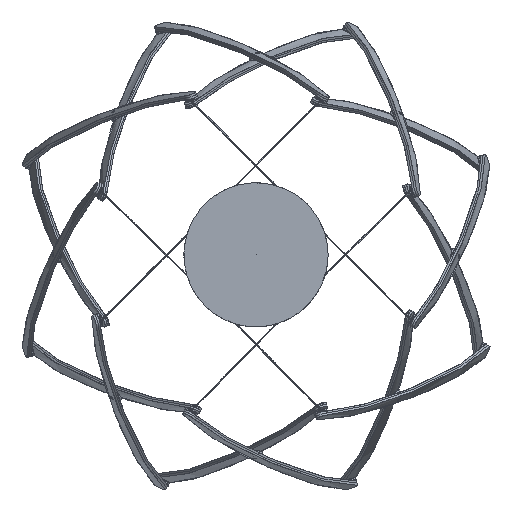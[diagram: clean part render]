
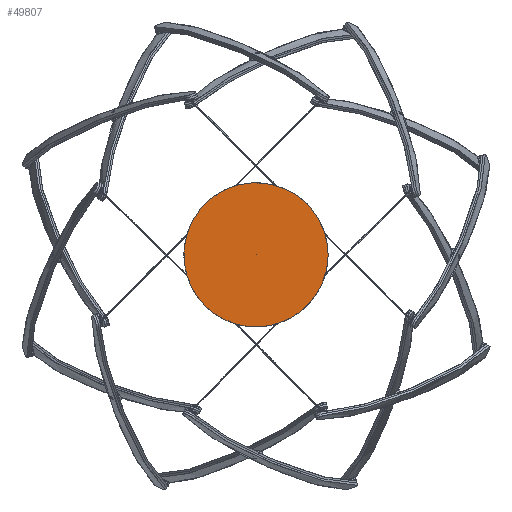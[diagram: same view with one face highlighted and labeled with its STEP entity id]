
A CAD part, top view. The second image highlights one B-rep face of the part: STEP entity #49807.
In plain terms, the highlighted free-form (B-spline) face has degree [3, 3] with [4, 11] control points.
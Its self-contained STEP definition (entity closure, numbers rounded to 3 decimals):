
#5748=B_SPLINE_CURVE_WITH_KNOTS('',3,(#160937,#160938,#160939,#160940),
 .UNSPECIFIED.,.F.,.F.,(4,4),(0.,1.),.UNSPECIFIED.);
#5749=B_SPLINE_CURVE_WITH_KNOTS('',3,(#160941,#160942,#160943,#160944,#160945,
#160946,#160947,#160948,#160949,#160950,#160951),.UNSPECIFIED.,.T.,.F.,
(4,1,1,1,1,1,1,1,4),(2.,3.,4.,5.,6.,7.,8.,9.,10.),.UNSPECIFIED.);
#6596=B_SPLINE_SURFACE_WITH_KNOTS('',3,3,((#160891,#160892,#160893,#160894,
#160895,#160896,#160897,#160898,#160899,#160900,#160901),(#160902,#160903,
#160904,#160905,#160906,#160907,#160908,#160909,#160910,#160911,#160912),
(#160913,#160914,#160915,#160916,#160917,#160918,#160919,#160920,#160921,
#160922,#160923),(#160924,#160925,#160926,#160927,#160928,#160929,#160930,
#160931,#160932,#160933,#160934)),.UNSPECIFIED.,.F.,.T.,.F.,(4,4),(4,1,
1,1,1,1,1,1,4),(0.,1.),(2.,3.,4.,5.,6.,7.,8.,9.,10.),.UNSPECIFIED.);
#10610=FACE_OUTER_BOUND('',#12785,.T.);
#12785=EDGE_LOOP('',(#46515,#46516,#46517));
#27221=VERTEX_POINT('',#160935);
#27222=VERTEX_POINT('',#160936);
#36818=EDGE_CURVE('',#27221,#27222,#5748,.T.);
#36819=EDGE_CURVE('',#27222,#27222,#5749,.T.);
#46515=ORIENTED_EDGE('',*,*,#36818,.T.);
#46516=ORIENTED_EDGE('',*,*,#36819,.T.);
#46517=ORIENTED_EDGE('',*,*,#36818,.F.);
#49807=ADVANCED_FACE('',(#10610),#6596,.T.);
#160891=CARTESIAN_POINT('Ctrl Pts',(0.,0.,
42.343));
#160892=CARTESIAN_POINT('Ctrl Pts',(0.,0.,
42.343));
#160893=CARTESIAN_POINT('Ctrl Pts',(0.,0.,
42.343));
#160894=CARTESIAN_POINT('Ctrl Pts',(0.,0.,
42.343));
#160895=CARTESIAN_POINT('Ctrl Pts',(0.,0.,
42.343));
#160896=CARTESIAN_POINT('Ctrl Pts',(0.,0.,
42.343));
#160897=CARTESIAN_POINT('Ctrl Pts',(0.,0.,
42.343));
#160898=CARTESIAN_POINT('Ctrl Pts',(0.,0.,
42.343));
#160899=CARTESIAN_POINT('Ctrl Pts',(0.,0.,
42.343));
#160900=CARTESIAN_POINT('Ctrl Pts',(0.,0.,
42.343));
#160901=CARTESIAN_POINT('Ctrl Pts',(0.,0.,
42.343));
#160902=CARTESIAN_POINT('Ctrl Pts',(1.5,-0.003,
42.343));
#160903=CARTESIAN_POINT('Ctrl Pts',(1.501,0.389,
42.343));
#160904=CARTESIAN_POINT('Ctrl Pts',(1.177,1.173,42.343));
#160905=CARTESIAN_POINT('Ctrl Pts',(0.003,1.662,
42.343));
#160906=CARTESIAN_POINT('Ctrl Pts',(-1.173,1.177,42.343));
#160907=CARTESIAN_POINT('Ctrl Pts',(-1.662,0.003,
42.343));
#160908=CARTESIAN_POINT('Ctrl Pts',(-1.177,-1.173,42.343));
#160909=CARTESIAN_POINT('Ctrl Pts',(-0.003,-1.662,
42.343));
#160910=CARTESIAN_POINT('Ctrl Pts',(1.173,-1.177,42.343));
#160911=CARTESIAN_POINT('Ctrl Pts',(1.499,-0.394,
42.343));
#160912=CARTESIAN_POINT('Ctrl Pts',(1.5,-0.003,
42.343));
#160913=CARTESIAN_POINT('Ctrl Pts',(3.,-0.005,
42.343));
#160914=CARTESIAN_POINT('Ctrl Pts',(3.001,0.778,
42.343));
#160915=CARTESIAN_POINT('Ctrl Pts',(2.355,2.347,42.343));
#160916=CARTESIAN_POINT('Ctrl Pts',(0.006,3.325,
42.343));
#160917=CARTESIAN_POINT('Ctrl Pts',(-2.347,2.355,42.343));
#160918=CARTESIAN_POINT('Ctrl Pts',(-3.325,0.006,
42.343));
#160919=CARTESIAN_POINT('Ctrl Pts',(-2.355,-2.347,
42.343));
#160920=CARTESIAN_POINT('Ctrl Pts',(-0.006,-3.325,
42.343));
#160921=CARTESIAN_POINT('Ctrl Pts',(2.347,-2.355,42.343));
#160922=CARTESIAN_POINT('Ctrl Pts',(2.999,-0.789,
42.343));
#160923=CARTESIAN_POINT('Ctrl Pts',(3.,-0.005,
42.343));
#160924=CARTESIAN_POINT('Ctrl Pts',(4.5,-0.008,
42.343));
#160925=CARTESIAN_POINT('Ctrl Pts',(4.502,1.168,42.343));
#160926=CARTESIAN_POINT('Ctrl Pts',(3.532,3.52,42.343));
#160927=CARTESIAN_POINT('Ctrl Pts',(0.009,4.987,
42.343));
#160928=CARTESIAN_POINT('Ctrl Pts',(-3.52,3.532,42.343));
#160929=CARTESIAN_POINT('Ctrl Pts',(-4.987,0.009,
42.343));
#160930=CARTESIAN_POINT('Ctrl Pts',(-3.532,-3.52,42.343));
#160931=CARTESIAN_POINT('Ctrl Pts',(-0.009,-4.987,
42.343));
#160932=CARTESIAN_POINT('Ctrl Pts',(3.52,-3.532,42.343));
#160933=CARTESIAN_POINT('Ctrl Pts',(4.498,-1.183,42.343));
#160934=CARTESIAN_POINT('Ctrl Pts',(4.5,-0.008,
42.343));
#160935=CARTESIAN_POINT('',(0.,0.,
42.343));
#160936=CARTESIAN_POINT('',(4.5,-0.008,42.343));
#160937=CARTESIAN_POINT('Ctrl Pts',(0.,0.,
42.343));
#160938=CARTESIAN_POINT('Ctrl Pts',(1.5,-0.003,
42.343));
#160939=CARTESIAN_POINT('Ctrl Pts',(3.,-0.005,
42.343));
#160940=CARTESIAN_POINT('Ctrl Pts',(4.5,-0.008,
42.343));
#160941=CARTESIAN_POINT('Ctrl Pts',(4.5,-0.008,
42.343));
#160942=CARTESIAN_POINT('Ctrl Pts',(4.502,1.168,42.343));
#160943=CARTESIAN_POINT('Ctrl Pts',(3.532,3.52,42.343));
#160944=CARTESIAN_POINT('Ctrl Pts',(0.009,4.987,
42.343));
#160945=CARTESIAN_POINT('Ctrl Pts',(-3.52,3.532,42.343));
#160946=CARTESIAN_POINT('Ctrl Pts',(-4.987,0.009,
42.343));
#160947=CARTESIAN_POINT('Ctrl Pts',(-3.532,-3.52,42.343));
#160948=CARTESIAN_POINT('Ctrl Pts',(-0.009,-4.987,
42.343));
#160949=CARTESIAN_POINT('Ctrl Pts',(3.52,-3.532,42.343));
#160950=CARTESIAN_POINT('Ctrl Pts',(4.498,-1.183,42.343));
#160951=CARTESIAN_POINT('Ctrl Pts',(4.5,-0.008,
42.343));
